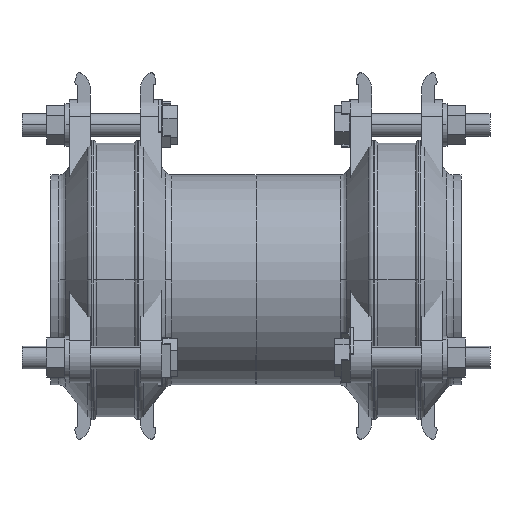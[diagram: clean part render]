
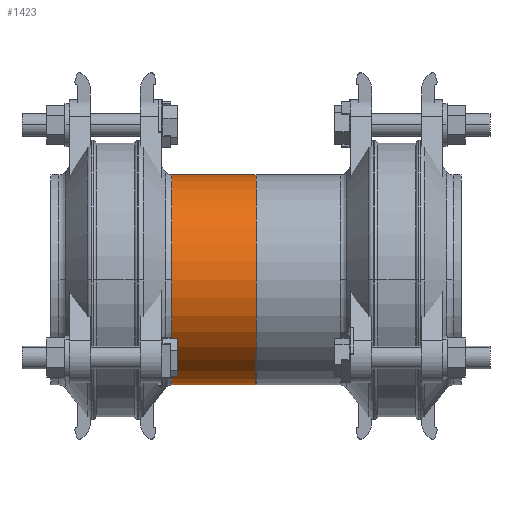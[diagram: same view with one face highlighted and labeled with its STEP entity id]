
A CAD part, front view. The second image highlights one B-rep face of the part: STEP entity #1423.
In plain terms, the highlighted cylindrical face has radius 74.5 mm (diameter 149 mm), a partial arc.
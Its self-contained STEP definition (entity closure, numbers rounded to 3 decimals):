
#1423=ADVANCED_FACE('',(#2921),#2922,.T.);
#2921=FACE_OUTER_BOUND('',#4971,.T.);
#2922=CYLINDRICAL_SURFACE('',#4972,74.5);
#4971=EDGE_LOOP('',(#7190,#7191,#7192,#7193,#7194));
#4972=AXIS2_PLACEMENT_3D('',#7195,#7196,#7197);
#7190=ORIENTED_EDGE('',*,*,#11374,.F.);
#7191=ORIENTED_EDGE('',*,*,#11375,.T.);
#7192=ORIENTED_EDGE('',*,*,#11376,.T.);
#7193=ORIENTED_EDGE('',*,*,#11377,.F.);
#7194=ORIENTED_EDGE('',*,*,#11378,.F.);
#7195=CARTESIAN_POINT('',(-20.311,0.,0.0));
#7196=DIRECTION('',(1.0,0.,0.));
#7197=DIRECTION('',(0.,0.,1.0));
#11374=EDGE_CURVE('',#13522,#13523,#13524,.T.);
#11375=EDGE_CURVE('',#13522,#13525,#13526,.T.);
#11376=EDGE_CURVE('',#13525,#13527,#13528,.T.);
#11377=EDGE_CURVE('',#13529,#13527,#13530,.T.);
#11378=EDGE_CURVE('',#13523,#13529,#13531,.T.);
#13522=VERTEX_POINT('',#16370);
#13523=VERTEX_POINT('',#16371);
#13524=LINE('',#16372,#16373);
#13525=VERTEX_POINT('',#16374);
#13526=CIRCLE('',#16375,74.5);
#13527=VERTEX_POINT('',#16376);
#13528=CIRCLE('',#16377,74.5);
#13529=VERTEX_POINT('',#16378);
#13530=LINE('',#16379,#16380);
#13531=CIRCLE('',#16381,74.5);
#16370=CARTESIAN_POINT('',(-50.121,0.,74.5));
#16371=CARTESIAN_POINT('',(9.5,0.,74.5));
#16372=CARTESIAN_POINT('',(-20.311,0.,74.5));
#16373=VECTOR('',#19192,1.0);
#16374=CARTESIAN_POINT('',(-50.121,-74.5,0.));
#16375=AXIS2_PLACEMENT_3D('',#19193,#19194,#19195);
#16376=CARTESIAN_POINT('',(-50.121,0.,-74.5));
#16377=AXIS2_PLACEMENT_3D('',#19196,#19197,#19198);
#16378=CARTESIAN_POINT('',(9.5,0.,-74.5));
#16379=CARTESIAN_POINT('',(-20.311,0.,-74.5));
#16380=VECTOR('',#19199,1.0);
#16381=AXIS2_PLACEMENT_3D('',#19200,#19201,#19202);
#19192=DIRECTION('',(1.0,0.,0.));
#19193=CARTESIAN_POINT('',(-50.121,0.,0.0));
#19194=DIRECTION('',(1.0,0.,0.));
#19195=DIRECTION('',(0.,0.,1.0));
#19196=CARTESIAN_POINT('',(-50.121,0.,0.0));
#19197=DIRECTION('',(1.0,0.,0.));
#19198=DIRECTION('',(0.,0.,1.0));
#19199=DIRECTION('',(-1.0,0.,0.));
#19200=CARTESIAN_POINT('',(9.5,0.,0.));
#19201=DIRECTION('',(1.0,0.,0.));
#19202=DIRECTION('',(0.,0.,1.0));
